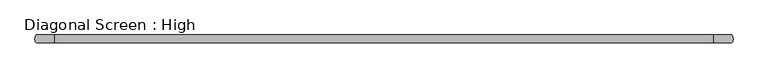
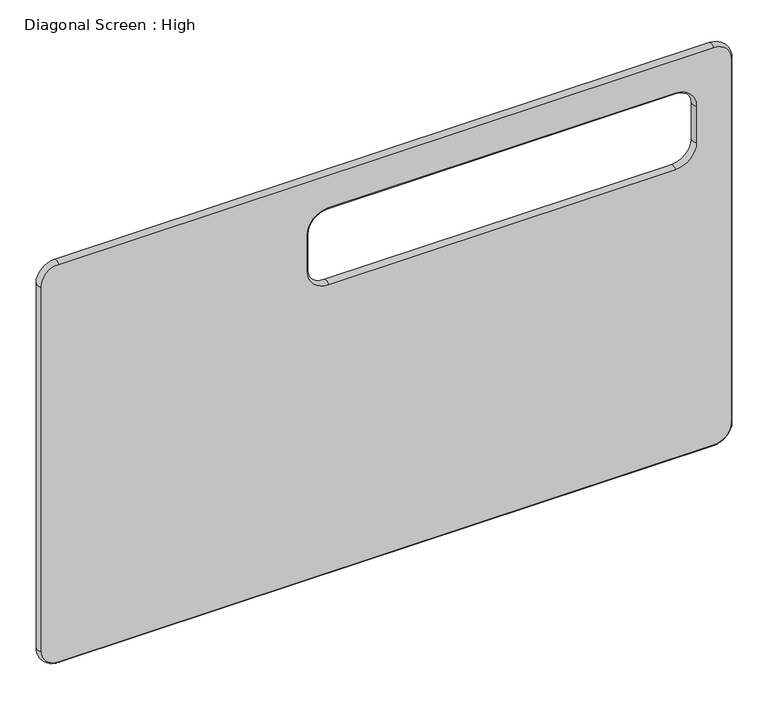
"""IFC4 building model written with IfcOpenShell, lengths in millimetres: furniture geometry, Diagonal Screen : High."""

from ifc_helpers import new_model, si_unit, point, frame, origin, place, context, project, spatial, circle_curve, ellipse_curve, trimmed, source, transform, mapped, element, save
from ifc_brep_helpers import plane_surface, revolved_surface, extruded_surface, advanced_brep


def diagonal_screen_high_bf20056d(model_context):
    return source(origin(), model_context, "Body", "AdvancedBrep", [
        advanced_brep(
        [(-894.9999939, 10.0, 1100.0000061), (-850.0, 10.0, 1145.0), (850.0, 10.0, 1145.0), (894.9999939, 10.0, 1100.0000061), (894.9999939, 10.0, 100.0), (850.0, 10.0, 55.0000061), (-850.0, 10.0, 55.0000061), (-894.9999939, 10.0, 100.0), (-205.0, 10.0, 900.0000061), (-150.0, 10.0, 845.0000061), (750.0, 10.0, 845.0000061), (805.0, 10.0, 900.0000061), (805.0, 10.0, 1000.0000061), (750.0, 10.0, 1055.0000061), (-150.0, 10.0, 1055.0000061), (-205.0, 10.0, 1000.0000061), (-850.0, -10.0, 1145.0), (-894.9999939, -10.0, 1100.0000061), (-894.9999939, -10.0, 100.0), (-850.0, -10.0, 55.0000061), (850.0, -10.0, 55.0000061), (894.9999939, -10.0, 100.0), (894.9999939, -10.0, 1100.0000061), (850.0, -10.0, 1145.0), (-150.0, -10.0, 845.0000061), (-205.0, -10.0, 900.0000061), (-205.0, -10.0, 1000.0000061), (-150.0, -10.0, 1055.0000061), (750.0, -10.0, 1055.0000061), (805.0, -10.0, 1000.0000061), (805.0, -10.0, 900.0000061), (750.0, -10.0, 845.0000061), (-850.0, 0.0, 1150.0000061), (-900.0, 0.0, 1100.0000061), (-900.0, 0.0, 100.0), (-850.0, 0.0, 50.0), (850.0, 0.0, 50.0), (900.0, 0.0, 100.0), (900.0, 0.0, 1100.0000061), (850.0, 0.0, 1150.0000061), (-200.0, 0.0, 900.0000061), (-150.0, 0.0, 850.0000061), (750.0, 0.0, 850.0000061), (800.0, 0.0, 900.0000061), (800.0, 0.0, 1000.0000061), (750.0, 0.0, 1050.0000061), (-150.0, 0.0, 1050.0000061), (-200.0, 0.0, 1000.0000061)],
        [
            (0, 1, circle_curve(frame((-850.0, 10.0, 1100.0000061), z_axis=(0.0, 1.0, 0.0), x_axis=(0.0, 0.0, 1.0)), 44.9999939)),
            (1, 2),
            (2, 3, circle_curve(frame((850.0, 10.0, 1100.0000061), z_axis=(0.0, 1.0, 0.0), x_axis=(1.0, 0.0, 0.0)), 44.9999939)),
            (3, 4),
            (4, 5, circle_curve(frame((850.0, 10.0, 100.0), z_axis=(0.0, 1.0, 0.0), x_axis=(0.0, 0.0, -1.0)), 44.9999939)),
            (5, 6),
            (6, 7, circle_curve(frame((-850.0, 10.0, 100.0), z_axis=(0.0, 1.0, 0.0), x_axis=(-1.0, 0.0, 0.0)), 44.9999939)),
            (7, 0),
            (8, 9, circle_curve(frame((-150.0, 10.0, 900.0000061), z_axis=(0.0, -1.0, 0.0), x_axis=(-1.0, 0.0, 0.0)), 55.0)),
            (9, 10),
            (10, 11, circle_curve(frame((750.0, 10.0, 900.0000061), z_axis=(0.0, -1.0, 0.0), x_axis=(0.0, 0.0, -1.0)), 55.0)),
            (11, 12),
            (12, 13, circle_curve(frame((750.0, 10.0, 1000.0000061), z_axis=(0.0, -1.0, 0.0), x_axis=(1.0, 0.0, 0.0)), 55.0)),
            (13, 14),
            (14, 15, circle_curve(frame((-150.0, 10.0, 1000.0000061), z_axis=(0.0, -1.0, 0.0), x_axis=(0.0, 0.0, 1.0)), 55.0)),
            (15, 8),
            (16, 17, circle_curve(frame((-850.0, -10.0, 1100.0000061), z_axis=(0.0, -1.0, 0.0), x_axis=(0.0, 0.0, 1.0)), 44.9999939)),
            (17, 18),
            (18, 19, circle_curve(frame((-850.0, -10.0, 100.0), z_axis=(0.0, -1.0, 0.0), x_axis=(-1.0, 0.0, 0.0)), 44.9999939)),
            (19, 20),
            (20, 21, circle_curve(frame((850.0, -10.0, 100.0), z_axis=(0.0, -1.0, 0.0), x_axis=(0.0, 0.0, -1.0)), 44.9999939)),
            (21, 22),
            (22, 23, circle_curve(frame((850.0, -10.0, 1100.0000061), z_axis=(0.0, -1.0, 0.0), x_axis=(1.0, 0.0, 0.0)), 44.9999939)),
            (23, 16),
            (24, 25, circle_curve(frame((-150.0, -10.0, 900.0000061), z_axis=(0.0, 1.0, 0.0), x_axis=(-1.0, 0.0, 0.0)), 55.0)),
            (25, 26),
            (26, 27, circle_curve(frame((-150.0, -10.0, 1000.0000061), z_axis=(0.0, 1.0, 0.0), x_axis=(0.0, 0.0, 1.0)), 55.0)),
            (27, 28),
            (28, 29, circle_curve(frame((750.0, -10.0, 1000.0000061), z_axis=(0.0, 1.0, 0.0), x_axis=(1.0, 0.0, 0.0)), 55.0)),
            (29, 30),
            (30, 31, circle_curve(frame((750.0, -10.0, 900.0000061), z_axis=(0.0, 1.0, 0.0), x_axis=(0.0, 0.0, -1.0)), 55.0)),
            (31, 24),
            (16, 32, ellipse_curve(frame((-850.0, 0.0, 1145.0), z_axis=(-1.0, 0.0, 0.0), x_axis=(0.0, 1.0, 0.0)), 10.0, 5.0000061)),
            (32, 1, ellipse_curve(frame((-850.0, 0.0, 1145.0), z_axis=(-1.0, 0.0, 0.0), x_axis=(0.0, 1.0, 0.0)), 10.0, 5.0000061)),
            (0, 33, ellipse_curve(frame((-894.9999939, 0.0, 1100.0000061), z_axis=(0.0, 0.0, 1.0), x_axis=(0.0, 1.0, 0.0)), 10.0, 5.0000061)),
            (33, 17, ellipse_curve(frame((-894.9999939, 0.0, 1100.0000061), z_axis=(0.0, 0.0, 1.0), x_axis=(0.0, 1.0, 0.0)), 10.0, 5.0000061)),
            (7, 34, ellipse_curve(frame((-894.9999939, 0.0, 100.0), z_axis=(0.0, 0.0, 1.0), x_axis=(0.0, 1.0, 0.0)), 10.0, 5.0000061)),
            (34, 18, ellipse_curve(frame((-894.9999939, 0.0, 100.0), z_axis=(0.0, 0.0, 1.0), x_axis=(0.0, 1.0, 0.0)), 10.0, 5.0000061)),
            (6, 35, ellipse_curve(frame((-850.0, 0.0, 55.0000061), z_axis=(-1.0, 0.0, 0.0), x_axis=(0.0, 1.0, 0.0)), 10.0, 5.0000061)),
            (35, 19, ellipse_curve(frame((-850.0, 0.0, 55.0000061), z_axis=(-1.0, 0.0, 0.0), x_axis=(0.0, 1.0, 0.0)), 10.0, 5.0000061)),
            (5, 36, ellipse_curve(frame((850.0, 0.0, 55.0000061), z_axis=(-1.0, 0.0, 0.0), x_axis=(0.0, 1.0, 0.0)), 10.0, 5.0000061)),
            (36, 20, ellipse_curve(frame((850.0, 0.0, 55.0000061), z_axis=(-1.0, 0.0, 0.0), x_axis=(0.0, 1.0, 0.0)), 10.0, 5.0000061)),
            (4, 37, ellipse_curve(frame((894.9999939, 0.0, 100.0), z_axis=(0.0, 0.0, -1.0), x_axis=(0.0, 1.0, 0.0)), 10.0, 5.0000061)),
            (37, 21, ellipse_curve(frame((894.9999939, 0.0, 100.0), z_axis=(0.0, 0.0, -1.0), x_axis=(0.0, 1.0, 0.0)), 10.0, 5.0000061)),
            (3, 38, ellipse_curve(frame((894.9999939, 0.0, 1100.0000061), z_axis=(0.0, 0.0, -1.0), x_axis=(0.0, 1.0, 0.0)), 10.0, 5.0000061)),
            (38, 22, ellipse_curve(frame((894.9999939, 0.0, 1100.0000061), z_axis=(0.0, 0.0, -1.0), x_axis=(0.0, 1.0, 0.0)), 10.0, 5.0000061)),
            (2, 39, ellipse_curve(frame((850.0, 0.0, 1145.0), z_axis=(1.0, 0.0, 0.0), x_axis=(0.0, 1.0, 0.0)), 10.0, 5.0000061)),
            (39, 23, ellipse_curve(frame((850.0, 0.0, 1145.0), z_axis=(1.0, 0.0, 0.0), x_axis=(0.0, 1.0, 0.0)), 10.0, 5.0000061)),
            (8, 40, ellipse_curve(frame((-205.0, 0.0, 900.0000061), z_axis=(0.0, 0.0, -1.0), x_axis=(0.0, 1.0, 0.0)), 10.0, 5.0)),
            (40, 25, ellipse_curve(frame((-205.0, 0.0, 900.0000061), z_axis=(0.0, 0.0, -1.0), x_axis=(0.0, 1.0, 0.0)), 10.0, 5.0)),
            (24, 41, ellipse_curve(frame((-150.0, 0.0, 845.0000061), z_axis=(-1.0, 0.0, 0.0), x_axis=(0.0, 1.0, 0.0)), 10.0, 5.0)),
            (41, 9, ellipse_curve(frame((-150.0, 0.0, 845.0000061), z_axis=(-1.0, 0.0, 0.0), x_axis=(0.0, 1.0, 0.0)), 10.0, 5.0)),
            (31, 42, ellipse_curve(frame((750.0, 0.0, 845.0000061), z_axis=(-1.0, 0.0, 0.0), x_axis=(0.0, 1.0, 0.0)), 10.0, 5.0)),
            (42, 10, ellipse_curve(frame((750.0, 0.0, 845.0000061), z_axis=(-1.0, 0.0, 0.0), x_axis=(0.0, 1.0, 0.0)), 10.0, 5.0)),
            (30, 43, ellipse_curve(frame((805.0, 0.0, 900.0000061), z_axis=(0.0, 0.0, -1.0), x_axis=(0.0, 1.0, 0.0)), 10.0, 5.0)),
            (43, 11, ellipse_curve(frame((805.0, 0.0, 900.0000061), z_axis=(0.0, 0.0, -1.0), x_axis=(0.0, 1.0, 0.0)), 10.0, 5.0)),
            (29, 44, ellipse_curve(frame((805.0, 0.0, 1000.0000061), z_axis=(0.0, 0.0, -1.0), x_axis=(0.0, 1.0, 0.0)), 10.0, 5.0)),
            (44, 12, ellipse_curve(frame((805.0, 0.0, 1000.0000061), z_axis=(0.0, 0.0, -1.0), x_axis=(0.0, 1.0, 0.0)), 10.0, 5.0)),
            (28, 45, ellipse_curve(frame((750.0, 0.0, 1055.0000061), z_axis=(1.0, 0.0, 0.0), x_axis=(0.0, 1.0, 0.0)), 10.0, 5.0)),
            (45, 13, ellipse_curve(frame((750.0, 0.0, 1055.0000061), z_axis=(1.0, 0.0, 0.0), x_axis=(0.0, 1.0, 0.0)), 10.0, 5.0)),
            (27, 46, ellipse_curve(frame((-150.0, 0.0, 1055.0000061), z_axis=(1.0, 0.0, 0.0), x_axis=(0.0, 1.0, 0.0)), 10.0, 5.0)),
            (46, 14, ellipse_curve(frame((-150.0, 0.0, 1055.0000061), z_axis=(1.0, 0.0, 0.0), x_axis=(0.0, 1.0, 0.0)), 10.0, 5.0)),
            (26, 47, ellipse_curve(frame((-205.0, 0.0, 1000.0000061), z_axis=(0.0, 0.0, 1.0), x_axis=(0.0, 1.0, 0.0)), 10.0, 5.0)),
            (47, 15, ellipse_curve(frame((-205.0, 0.0, 1000.0000061), z_axis=(0.0, 0.0, 1.0), x_axis=(0.0, 1.0, 0.0)), 10.0, 5.0)),
        ],
        [
            plane_surface(frame((-800.0, 10.0, 1100.0000061), z_axis=(0.0, 1.0, 0.0), x_axis=(0.0, 0.0, -1.0))),
            plane_surface(frame((-800.0, -10.0, 1100.0000061), z_axis=(0.0, -1.0, 0.0), x_axis=(0.0, 0.0, 1.0))),
            revolved_surface(trimmed(ellipse_curve(frame((-850.0, 0.0, 1145.0), z_axis=(1.0, 0.0, 0.0), x_axis=(0.0, 1.0, 0.0)), 10.0, 5.0000061), [point((-850.0, 10.0, 1145.0))], [point((-850.0, -10.0, 1145.0))], True, "CARTESIAN"), (-850.0, -10.0, 1100.0000061), (0.0, -1.0, 0.0)),
            extruded_surface(trimmed(ellipse_curve(frame((-894.9999939, 0.0, 1100.0000061), z_axis=(0.0, 0.0, -1.0), x_axis=(0.0, 1.0, 0.0)), 10.0, 5.0000061), [point((-894.9999939, -10.0, 1100.0000061))], [point((-894.9999939, 10.0, 1100.0000061))], True, "CARTESIAN"), (0.0, 0.0, -1000.0000061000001), 1000.0000061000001),
            revolved_surface(trimmed(ellipse_curve(frame((-894.9999939, 0.0, 100.0), z_axis=(0.0, 0.0, 1.0), x_axis=(0.0, 1.0, 0.0)), 10.0, 5.0000061), [point((-894.9999939, 10.0, 100.0))], [point((-894.9999939, -10.0, 100.0))], True, "CARTESIAN"), (-850.0, -10.0, 100.0), (0.0, -1.0, 0.0)),
            extruded_surface(trimmed(ellipse_curve(frame((-850.0, 0.0, 55.0000061), z_axis=(1.0, 0.0, 0.0), x_axis=(0.0, 1.0, 0.0)), 10.0, 5.0000061), [point((-850.0, -10.0, 55.0000061))], [point((-850.0, 10.0, 55.0000061))], True, "CARTESIAN"), (1700.0, 0.0, 0.0), 1700.0),
            revolved_surface(trimmed(ellipse_curve(frame((850.0, 0.0, 55.0000061), z_axis=(-1.0, 0.0, 0.0), x_axis=(0.0, 1.0, 0.0)), 10.0, 5.0000061), [point((850.0, 10.0, 55.0000061))], [point((850.0, -10.0, 55.0000061))], True, "CARTESIAN"), (850.0, -10.0, 100.0), (0.0, -1.0, 0.0)),
            extruded_surface(trimmed(ellipse_curve(frame((894.9999939, 0.0, 100.0), z_axis=(0.0, 0.0, 1.0), x_axis=(0.0, 1.0, 0.0)), 10.0, 5.0000061), [point((894.9999939, -10.0, 100.0))], [point((894.9999939, 10.0, 100.0))], True, "CARTESIAN"), (0.0, 0.0, 1000.0000061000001), 1000.0000061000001),
            revolved_surface(trimmed(ellipse_curve(frame((894.9999939, 0.0, 1100.0000061), z_axis=(0.0, 0.0, -1.0), x_axis=(0.0, 1.0, 0.0)), 10.0, 5.0000061), [point((894.9999939, 10.0, 1100.0000061))], [point((894.9999939, -10.0, 1100.0000061))], True, "CARTESIAN"), (850.0, -10.0, 1100.0000061), (0.0, -1.0, 0.0)),
            extruded_surface(trimmed(ellipse_curve(frame((850.0, 0.0, 1145.0), z_axis=(-1.0, 0.0, 0.0), x_axis=(0.0, 1.0, 0.0)), 10.0, 5.0000061), [point((850.0, -10.0, 1145.0))], [point((850.0, 10.0, 1145.0))], True, "CARTESIAN"), (-1700.0, 0.0, 0.0), 1700.0),
            revolved_surface(trimmed(ellipse_curve(frame((-205.0, 0.0, 900.0000061), z_axis=(0.0, 0.0, 1.0), x_axis=(0.0, 1.0, 0.0)), 10.0, 5.0), [point((-205.0, -10.0, 900.0000061))], [point((-205.0, 10.0, 900.0000061))], True, "CARTESIAN"), (-150.0, 0.0, 900.0000061), (0.0, -1.0, 0.0)),
            extruded_surface(trimmed(ellipse_curve(frame((-150.0, 0.0, 845.0000061), z_axis=(1.0, 0.0, 0.0), x_axis=(0.0, 1.0, 0.0)), 10.0, 5.0), [point((-150.0, 10.0, 845.0000061))], [point((-150.0, -10.0, 845.0000061))], True, "CARTESIAN"), (900.0, 0.0, 0.0), 900.0),
            revolved_surface(trimmed(ellipse_curve(frame((750.0, 0.0, 845.0000061), z_axis=(-1.0, 0.0, 0.0), x_axis=(0.0, 1.0, 0.0)), 10.0, 5.0), [point((750.0, -10.0, 845.0000061))], [point((750.0, 10.0, 845.0000061))], True, "CARTESIAN"), (750.0, 0.0, 900.0000061), (0.0, -1.0, 0.0)),
            extruded_surface(trimmed(ellipse_curve(frame((805.0, 0.0, 900.0000061), z_axis=(0.0, 0.0, 1.0), x_axis=(0.0, 1.0, 0.0)), 10.0, 5.0), [point((805.0, 10.0, 900.0000061))], [point((805.0, -10.0, 900.0000061))], True, "CARTESIAN"), (0.0, 0.0, 100.0), 100.0),
            revolved_surface(trimmed(ellipse_curve(frame((805.0, 0.0, 1000.0000061), z_axis=(0.0, 0.0, -1.0), x_axis=(0.0, 1.0, 0.0)), 10.0, 5.0), [point((805.0, -10.0, 1000.0000061))], [point((805.0, 10.0, 1000.0000061))], True, "CARTESIAN"), (750.0, 0.0, 1000.0000061), (0.0, -1.0, 0.0)),
            extruded_surface(trimmed(ellipse_curve(frame((750.0, 0.0, 1055.0000061), z_axis=(-1.0, 0.0, 0.0), x_axis=(0.0, 1.0, 0.0)), 10.0, 5.0), [point((750.0, 10.0, 1055.0000061))], [point((750.0, -10.0, 1055.0000061))], True, "CARTESIAN"), (-900.0, 0.0, 0.0), 900.0),
            revolved_surface(trimmed(ellipse_curve(frame((-150.0, 0.0, 1055.0000061), z_axis=(1.0, 0.0, 0.0), x_axis=(0.0, 1.0, 0.0)), 10.0, 5.0), [point((-150.0, -10.0, 1055.0000061))], [point((-150.0, 10.0, 1055.0000061))], True, "CARTESIAN"), (-150.0, 0.0, 1000.0000061), (0.0, -1.0, 0.0)),
            extruded_surface(trimmed(ellipse_curve(frame((-205.0, 0.0, 1000.0000061), z_axis=(0.0, 0.0, -1.0), x_axis=(0.0, 1.0, 0.0)), 10.0, 5.0), [point((-205.0, 10.0, 1000.0000061))], [point((-205.0, -10.0, 1000.0000061))], True, "CARTESIAN"), (0.0, 0.0, -100.0), 100.0),
        ],
        [
            (0, [[1, 2, 3, 4, 5, 6, 7, 8], [9, 10, 11, 12, 13, 14, 15, 16]]),
            (1, [[17, 18, 19, 20, 21, 22, 23, 24], [25, 26, 27, 28, 29, 30, 31, 32]]),
            (2, [[33, 34, -1, 35, 36, -17]]),
            (3, [[-35, -8, 37, 38, -18, -36]]),
            (4, [[-37, -7, 39, 40, -19, -38]]),
            (5, [[-39, -6, 41, 42, -20, -40]]),
            (6, [[-41, -5, 43, 44, -21, -42]]),
            (7, [[-43, -4, 45, 46, -22, -44]]),
            (8, [[-45, -3, 47, 48, -23, -46]]),
            (9, [[-33, -24, -48, -47, -2, -34]]),
            (10, [[49, 50, -25, 51, 52, -9]]),
            (11, [[-51, -32, 53, 54, -10, -52]]),
            (12, [[-53, -31, 55, 56, -11, -54]]),
            (13, [[-55, -30, 57, 58, -12, -56]]),
            (14, [[-57, -29, 59, 60, -13, -58]]),
            (15, [[61, 62, -14, -60, -59, -28]]),
            (16, [[-61, -27, 63, 64, -15, -62]]),
            (17, [[-63, -26, -50, -49, -16, -64]]),
        ],
    ),
    ])


if __name__ == "__main__":
    model = new_model("IFC4")
    model_context = context("Model", 3, world=origin())
    ifc_project = project(units=[si_unit("LENGTHUNIT", "METRE", prefix="MILLI")], contexts=[model_context])
    site = spatial("IfcSite", under=ifc_project)
    building = spatial("IfcBuilding", under=site)
    placement = place(None, origin())
    diagonal_screen_high_shape = diagonal_screen_high_bf20056d(model_context)
    element("IfcFurniture", 1, ObjectType="Diagonal Screen : High", at=placement, inside=building, context=model_context, shape_type="MappedRepresentation", body=[
        mapped(diagonal_screen_high_shape, transform((0.0, 0.0, 0.0), x_axis=(1.0, 0.0, 0.0), y_axis=(0.0, 1.0, 0.0), z_axis=(0.0, 0.0, 1.0))),
    ])
    save(model, "model.ifc")
